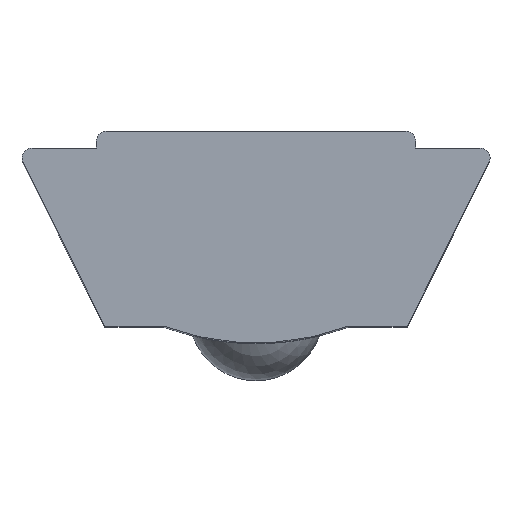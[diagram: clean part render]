
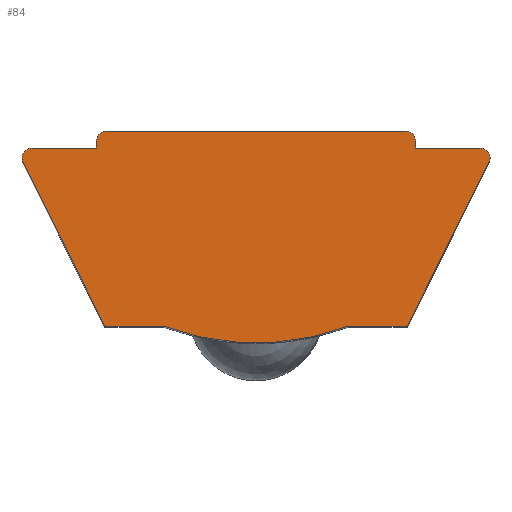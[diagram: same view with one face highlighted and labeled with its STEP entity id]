
A CAD part, top view. The second image highlights one B-rep face of the part: STEP entity #84.
In plain terms, the highlighted planar face has unit normal (0, 0, 1).
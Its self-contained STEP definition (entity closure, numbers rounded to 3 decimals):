
#10 = CARTESIAN_POINT ( 'NONE',  ( -6.665, 5.5, 10. ) ) ;
#32 = AXIS2_PLACEMENT_3D ( 'NONE', #558, #557, #556 ) ;
#49 = AXIS2_PLACEMENT_3D ( 'NONE', #10, #842, #839 ) ;
#84 = ADVANCED_FACE ( 'NONE', ( #340 ), #711, .T. ) ;
#95 = CARTESIAN_POINT ( 'NONE',  ( -6.933, 5.366, 10. ) ) ;
#101 = EDGE_CURVE ( 'NONE', #565, #428, #333, .T. ) ;
#102 = CARTESIAN_POINT ( 'NONE',  ( -4.45, 6.3, 10. ) ) ;
#104 = CARTESIAN_POINT ( 'NONE',  ( -6.965, 5.5, 10. ) ) ;
#107 = VECTOR ( 'NONE', #421, 1000. ) ;
#110 = VECTOR ( 'NONE', #391, 1000. ) ;
#112 = AXIS2_PLACEMENT_3D ( 'NONE', #373, #371, #369 ) ;
#117 = LINE ( 'NONE', #401, #110 ) ;
#123 = CARTESIAN_POINT ( 'NONE',  ( 4.5, 0.5, 10. ) ) ;
#130 = LINE ( 'NONE', #393, #107 ) ;
#132 = VECTOR ( 'NONE', #461, 1000. ) ;
#140 = AXIS2_PLACEMENT_3D ( 'NONE', #403, #395, #390 ) ;
#151 = VECTOR ( 'NONE', #484, 1000. ) ;
#152 = LINE ( 'NONE', #479, #132 ) ;
#159 = EDGE_CURVE ( 'NONE', #376, #499, #318, .T. ) ;
#162 = AXIS2_PLACEMENT_3D ( 'NONE', #449, #442, #439 ) ;
#166 = LINE ( 'NONE', #505, #151 ) ;
#176 = AXIS2_PLACEMENT_3D ( 'NONE', #533, #526, #523 ) ;
#177 = VECTOR ( 'NONE', #609, 1000. ) ;
#179 = CIRCLE ( 'NONE', #32, 7.813 ) ;
#183 = LINE ( 'NONE', #608, #177 ) ;
#188 = VECTOR ( 'NONE', #699, 1000. ) ;
#190 = CIRCLE ( 'NONE', #49, 0.3 ) ;
#199 = LINE ( 'NONE', #768, #188 ) ;
#209 = CARTESIAN_POINT ( 'NONE',  ( -6.665, 5.8, 10. ) ) ;
#217 = CARTESIAN_POINT ( 'NONE',  ( 4.75, 6., 10. ) ) ;
#229 = CIRCLE ( 'NONE', #140, 0.3 ) ;
#240 = CIRCLE ( 'NONE', #162, 0.3 ) ;
#243 = CIRCLE ( 'NONE', #176, 0.3 ) ;
#257 = CIRCLE ( 'NONE', #112, 0.3 ) ;
#263 = LINE ( 'NONE', #744, #265 ) ;
#265 = VECTOR ( 'NONE', #724, 1000. ) ;
#268 = EDGE_CURVE ( 'NONE', #822, #398, #263, .T. ) ;
#279 = CARTESIAN_POINT ( 'NONE',  ( -4.75, 5.8, 10. ) ) ;
#315 = VECTOR ( 'NONE', #460, 1000. ) ;
#318 = LINE ( 'NONE', #543, #315 ) ;
#319 = CARTESIAN_POINT ( 'NONE',  ( -2.75, 0.5, 10. ) ) ;
#326 = EDGE_CURVE ( 'NONE', #428, #376, #243, .T. ) ;
#333 = LINE ( 'NONE', #610, #335 ) ;
#335 = VECTOR ( 'NONE', #592, 1000. ) ;
#337 = EDGE_CURVE ( 'NONE', #499, #822, #240, .T. ) ;
#340 = FACE_OUTER_BOUND ( 'NONE', #753, .T. ) ;
#345 = EDGE_CURVE ( 'NONE', #419, #497, #229, .T. ) ;
#347 = EDGE_CURVE ( 'NONE', #810, #607, #257, .T. ) ;
#367 = VERTEX_POINT ( 'NONE', #319 ) ;
#369 = DIRECTION ( 'NONE',  ( 1., 0., 0. ) ) ;
#370 = CARTESIAN_POINT ( 'NONE',  ( -4.75, 6., 10. ) ) ;
#371 = DIRECTION ( 'NONE',  ( 0., 0., 1. ) ) ;
#372 = CARTESIAN_POINT ( 'NONE',  ( 4.75, 5.8, 10. ) ) ;
#373 = CARTESIAN_POINT ( 'NONE',  ( 6.665, 5.5, 10. ) ) ;
#376 = VERTEX_POINT ( 'NONE', #406 ) ;
#387 = CARTESIAN_POINT ( 'NONE',  ( 6.933, 5.366, 10. ) ) ;
#390 = DIRECTION ( 'NONE',  ( 1., 0., 0. ) ) ;
#391 = DIRECTION ( 'NONE',  ( 0.447, 0.894, 0. ) ) ;
#393 = CARTESIAN_POINT ( 'NONE',  ( 4.75, 5.8, 10. ) ) ;
#395 = DIRECTION ( 'NONE',  ( 0., 0., 1. ) ) ;
#398 = VERTEX_POINT ( 'NONE', #279 ) ;
#401 = CARTESIAN_POINT ( 'NONE',  ( 7.15, 5.8, 10. ) ) ;
#403 = CARTESIAN_POINT ( 'NONE',  ( -6.665, 5.5, 10. ) ) ;
#406 = CARTESIAN_POINT ( 'NONE',  ( 4.45, 6.3, 10. ) ) ;
#419 = VERTEX_POINT ( 'NONE', #209 ) ;
#421 = DIRECTION ( 'NONE',  ( -1., 0., 0. ) ) ;
#428 = VERTEX_POINT ( 'NONE', #217 ) ;
#439 = DIRECTION ( 'NONE',  ( 1., 0., 0. ) ) ;
#440 = AXIS2_PLACEMENT_3D ( 'NONE', #816, #670, #713 ) ;
#442 = DIRECTION ( 'NONE',  ( 0., 0., 1. ) ) ;
#449 = CARTESIAN_POINT ( 'NONE',  ( -4.45, 6., 10. ) ) ;
#460 = DIRECTION ( 'NONE',  ( -1., 0., 0. ) ) ;
#461 = DIRECTION ( 'NONE',  ( 1., 0., 0. ) ) ;
#475 = VERTEX_POINT ( 'NONE', #123 ) ;
#479 = CARTESIAN_POINT ( 'NONE',  ( 4.5, 0.5, 10. ) ) ;
#484 = DIRECTION ( 'NONE',  ( 1., 0., 0. ) ) ;
#497 = VERTEX_POINT ( 'NONE', #104 ) ;
#499 = VERTEX_POINT ( 'NONE', #102 ) ;
#505 = CARTESIAN_POINT ( 'NONE',  ( -4.5, 0.5, 10. ) ) ;
#518 = ORIENTED_EDGE ( 'NONE', *, *, #101, .T. ) ;
#519 = ORIENTED_EDGE ( 'NONE', *, *, #326, .T. ) ;
#521 = ORIENTED_EDGE ( 'NONE', *, *, #585, .T. ) ;
#523 = DIRECTION ( 'NONE',  ( 1., 0., 0. ) ) ;
#526 = DIRECTION ( 'NONE',  ( 0., 0., 1. ) ) ;
#527 = ORIENTED_EDGE ( 'NONE', *, *, #268, .T. ) ;
#531 = ORIENTED_EDGE ( 'NONE', *, *, #345, .T. ) ;
#533 = CARTESIAN_POINT ( 'NONE',  ( 4.45, 6., 10. ) ) ;
#534 = ORIENTED_EDGE ( 'NONE', *, *, #337, .T. ) ;
#541 = VERTEX_POINT ( 'NONE', #95 ) ;
#543 = CARTESIAN_POINT ( 'NONE',  ( -4.75, 6.3, 10. ) ) ;
#544 = ORIENTED_EDGE ( 'NONE', *, *, #159, .T. ) ;
#546 = ORIENTED_EDGE ( 'NONE', *, *, #645, .T. ) ;
#556 = DIRECTION ( 'NONE',  ( 1., 0., 0. ) ) ;
#557 = DIRECTION ( 'NONE',  ( 0., 0., 1. ) ) ;
#558 = CARTESIAN_POINT ( 'NONE',  ( 0., 7.813, 10. ) ) ;
#565 = VERTEX_POINT ( 'NONE', #372 ) ;
#576 = EDGE_CURVE ( 'NONE', #497, #541, #190, .T. ) ;
#585 = EDGE_CURVE ( 'NONE', #398, #419, #199, .T. ) ;
#587 = ORIENTED_EDGE ( 'NONE', *, *, #576, .T. ) ;
#591 = ORIENTED_EDGE ( 'NONE', *, *, #347, .T. ) ;
#592 = DIRECTION ( 'NONE',  ( 0., 1., 0. ) ) ;
#593 = ORIENTED_EDGE ( 'NONE', *, *, #730, .T. ) ;
#597 = ORIENTED_EDGE ( 'NONE', *, *, #735, .T. ) ;
#604 = VERTEX_POINT ( 'NONE', #826 ) ;
#605 = ORIENTED_EDGE ( 'NONE', *, *, #654, .T. ) ;
#606 = VERTEX_POINT ( 'NONE', #696 ) ;
#607 = VERTEX_POINT ( 'NONE', #691 ) ;
#608 = CARTESIAN_POINT ( 'NONE',  ( -7.15, 5.8, 10. ) ) ;
#609 = DIRECTION ( 'NONE',  ( 0.447, -0.894, 0. ) ) ;
#610 = CARTESIAN_POINT ( 'NONE',  ( 4.75, 6.3, 10. ) ) ;
#616 = ORIENTED_EDGE ( 'NONE', *, *, #693, .T. ) ;
#622 = ORIENTED_EDGE ( 'NONE', *, *, #707, .T. ) ;
#645 = EDGE_CURVE ( 'NONE', #541, #604, #183, .T. ) ;
#654 = EDGE_CURVE ( 'NONE', #367, #606, #179, .T. ) ;
#670 = DIRECTION ( 'NONE',  ( 0., 0., 1. ) ) ;
#691 = CARTESIAN_POINT ( 'NONE',  ( 6.665, 5.8, 10. ) ) ;
#693 = EDGE_CURVE ( 'NONE', #604, #367, #166, .T. ) ;
#696 = CARTESIAN_POINT ( 'NONE',  ( 2.75, 0.5, 10. ) ) ;
#699 = DIRECTION ( 'NONE',  ( -1., 0., 0. ) ) ;
#707 = EDGE_CURVE ( 'NONE', #606, #475, #152, .T. ) ;
#711 = PLANE ( 'NONE',  #440 ) ;
#713 = DIRECTION ( 'NONE',  ( 1., 0., 0. ) ) ;
#724 = DIRECTION ( 'NONE',  ( 0., -1., 0. ) ) ;
#730 = EDGE_CURVE ( 'NONE', #475, #810, #117, .T. ) ;
#735 = EDGE_CURVE ( 'NONE', #607, #565, #130, .T. ) ;
#744 = CARTESIAN_POINT ( 'NONE',  ( -4.75, 6.3, 10. ) ) ;
#753 = EDGE_LOOP ( 'NONE', ( #518, #519, #544, #534, #527, #521, #531, #587, #546, #616, #605, #622, #593, #591, #597 ) ) ;
#768 = CARTESIAN_POINT ( 'NONE',  ( -4.75, 5.8, 10. ) ) ;
#810 = VERTEX_POINT ( 'NONE', #387 ) ;
#816 = CARTESIAN_POINT ( 'NONE',  ( 0., 7.813, 10. ) ) ;
#822 = VERTEX_POINT ( 'NONE', #370 ) ;
#826 = CARTESIAN_POINT ( 'NONE',  ( -4.5, 0.5, 10. ) ) ;
#839 = DIRECTION ( 'NONE',  ( 1., 0., 0. ) ) ;
#842 = DIRECTION ( 'NONE',  ( 0., 0., 1. ) ) ;
